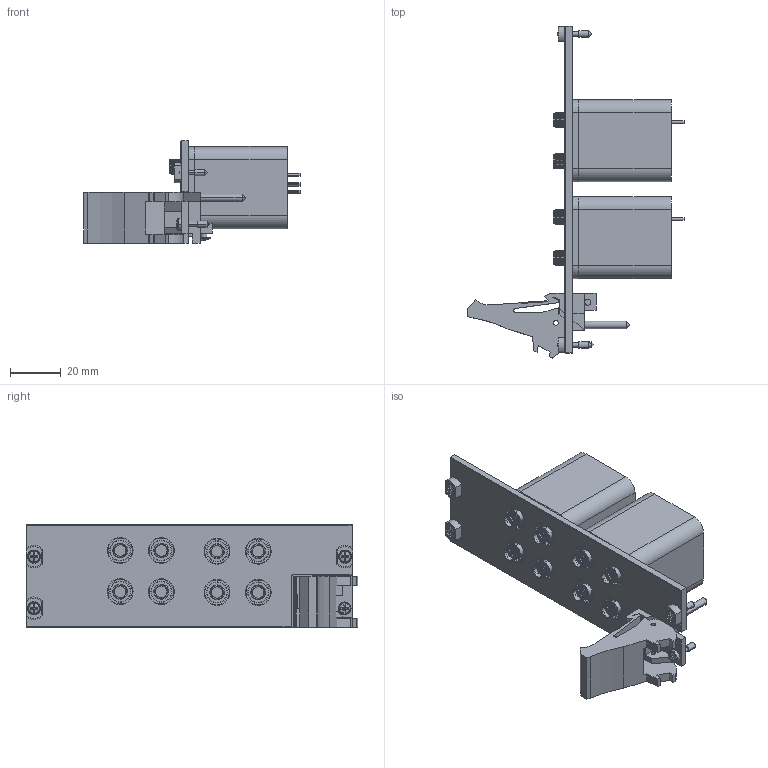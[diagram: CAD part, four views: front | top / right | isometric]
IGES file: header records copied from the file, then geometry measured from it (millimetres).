
Start section:  PTC IGES file: cu_pxi-2598.igs
Global section: file name: cu_pxi-2598.igs; native system: Pro/ENGINEER by Parametric Technology Corporation; preprocessor: 2006080; author: jjorden; organization: Unknown; date: 090909.100100; units: inch
Bounding box: 85.02 x 130.61 x 40.34 mm (x, y, z)
Surface area: 29911.7 mm2 (no closed solid volume)
Topology: 0 solids, 0 shells, 1048 faces, 4750 edges, 4732 vertices
Faces by surface type: revolution 651, bspline 397
